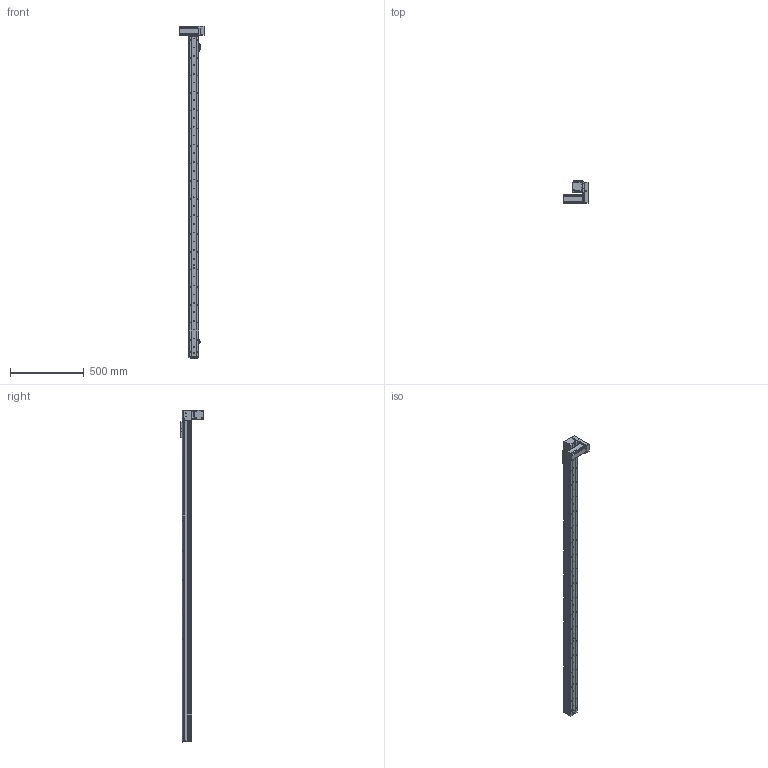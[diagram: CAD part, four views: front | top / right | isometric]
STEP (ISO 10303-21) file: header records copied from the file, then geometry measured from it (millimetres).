
FILE_DESCRIPTION (( 'STEP AP214' ), '1' );
FILE_NAME ('KSD68BS-S2000-MLD-CR.STEP', '2019-08-27T06:15:07', ( '微软用户' ), ( '微软中国' ), 'SwSTEP 2.0', 'SolidWorks 2014', '' );
FILE_SCHEMA (( 'AUTOMOTIVE_DESIGN' ));
Length unit declared in the file: millimetre
Products named in the file (14): 68宽单导轨全封闭同步带端板; KSD68BS-S2000-MLD-CR; 感应片68宽全封闭; 68宽单导轨全封闭丝杆传动安装板1防护罩; U倰嫖萇EEㄜSX672; 台达ECMA－C20604AS伺服电机（400W); KSD68BS 2000行程盖板全封闭; 68单导轨全封闭同步带安装板; KSD68BS 2000行程底板全封闭; 68遵裔啣揤啣1; 悵誘欶奻狟殏; 68单导轨全封闭同步带电机座左; KSD68BS 2000行程侧板全封闭; 68宽马达安装板连板上折同步带
Assembly tree (16 placements, depth 2):
  KSD68BS-S2000-MLD-CR
    KSD68BS 2000行程底板全封闭
    台达ECMA－C20604AS伺服电机（400W)
    U倰嫖萇EEㄜSX672  x3
    感应片68宽全封闭
    68宽马达安装板连板上折同步带
    悵誘欶奻狟殏
    68单导轨全封闭同步带安装板
    68单导轨全封闭同步带电机座左
    68宽单导轨全封闭同步带端板
    KSD68BS 2000行程侧板全封闭  x2
    68宽单导轨全封闭丝杆传动安装板1防护罩
    KSD68BS 2000行程盖板全封闭
    68遵裔啣揤啣1
Bounding box: 167.2 x 155.5 x 2258.1 mm (x, y, z)
Volume: 3881917.5 mm3; surface area: 1605644.5 mm2
Topology: 17 solids, 17 shells, 1650 faces, 4798 edges, 3052 vertices
Faces by surface type: cylinder 828, plane 622, cone 200
Entity records: 55343 total; most frequent: CARTESIAN_POINT 9730, DIRECTION 8202, ORIENTED_EDGE 7854, EDGE_CURVE 3927, AXIS2_PLACEMENT_3D 3008, VERTEX_POINT 2574, LINE 2186, VECTOR 2186
